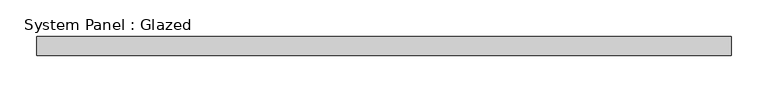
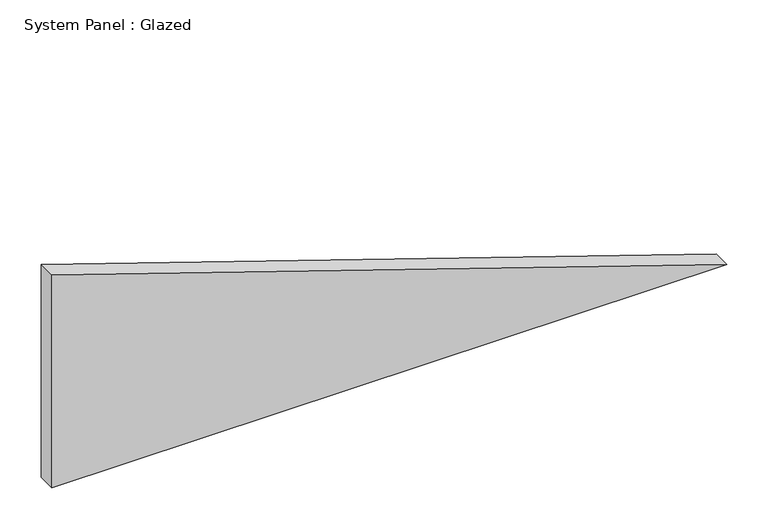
"""IFC4 building model written with IfcOpenShell, lengths in millimetres: plate geometry, System Panel : Glazed."""

from ifc_helpers import new_model, si_unit, frame, origin, place, context, project, spatial, polyline, outline, extrude, source, transform, mapped, element, save


def system_panel_glazed_09644247(model_context):
    return source(origin(), model_context, "Body", "SweptSolid", [
        extrude(outline(polyline([(0.0, -471.0976843), (0.0, 471.0976843), (314.0651229, -471.0976843), (0.0, -471.0976843)])), frame((0.0, -44.45, 0.0), z_axis=(0.0, 1.0, 0.0), x_axis=(0.0, 0.0, 1.0)), (0.0, 0.0, 1.0), 25.4),
    ])


if __name__ == "__main__":
    model = new_model("IFC4")
    model_context = context("Model", 3, world=origin())
    ifc_project = project(units=[si_unit("LENGTHUNIT", "METRE", prefix="MILLI")], contexts=[model_context])
    site = spatial("IfcSite", under=ifc_project)
    building = spatial("IfcBuilding", under=site)
    placement = place(None, origin())
    system_panel_glazed_shape = system_panel_glazed_09644247(model_context)
    element("IfcPlate", 1, ObjectType="System Panel : Glazed", at=placement, inside=building, context=model_context, shape_type="MappedRepresentation", body=[
        mapped(system_panel_glazed_shape, transform((0.0, 0.0, 0.0), x_axis=(1.0, 0.0, 0.0), y_axis=(0.0, 1.0, 0.0), z_axis=(0.0, 0.0, 1.0))),
    ])
    save(model, "model.ifc")
